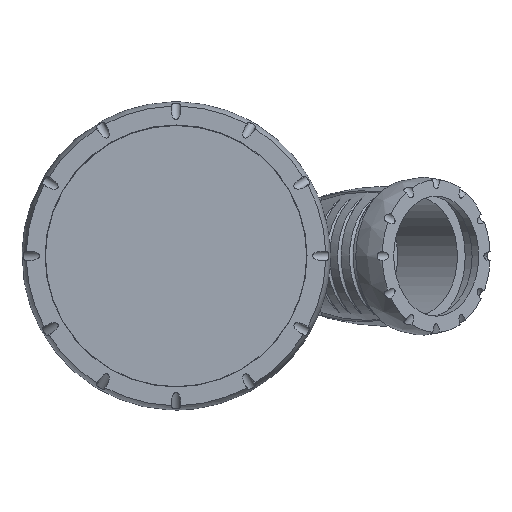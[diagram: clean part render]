
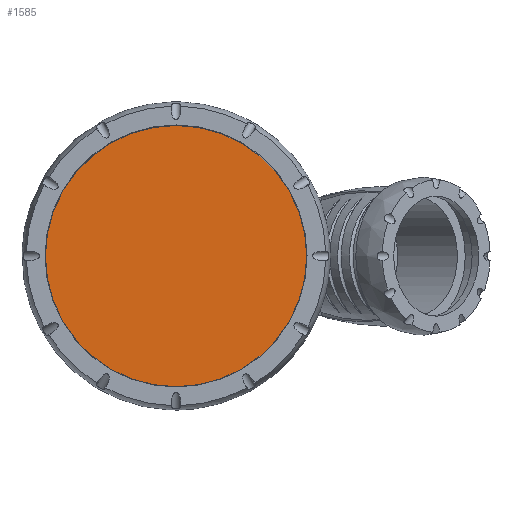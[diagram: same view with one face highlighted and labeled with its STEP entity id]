
A CAD part, top view. The second image highlights one B-rep face of the part: STEP entity #1585.
In plain terms, the highlighted planar face has unit normal (0, 0, 1).
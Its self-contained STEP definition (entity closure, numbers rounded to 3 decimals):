
#216=PLANE('',#1710);
#292=FACE_OUTER_BOUND('',#399,.T.);
#399=EDGE_LOOP('',(#1011));
#534=CIRCLE('',#1711,55.5);
#607=VERTEX_POINT('',#2290);
#775=EDGE_CURVE('',#607,#607,#534,.T.);
#1011=ORIENTED_EDGE('',*,*,#775,.T.);
#1585=ADVANCED_FACE('',(#292),#216,.T.);
#1710=AXIS2_PLACEMENT_3D('',#2289,#1894,#1895);
#1711=AXIS2_PLACEMENT_3D('',#2291,#1896,#1897);
#1894=DIRECTION('center_axis',(0.,0.,
1.));
#1895=DIRECTION('ref_axis',(0.,1.,0.));
#1896=DIRECTION('center_axis',(0.,0.,
1.));
#1897=DIRECTION('ref_axis',(0.,1.,0.));
#2289=CARTESIAN_POINT('Origin',(0.,0.,
154.1));
#2290=CARTESIAN_POINT('',(-55.5,0.,154.1));
#2291=CARTESIAN_POINT('Origin',(0.,0.,
154.1));
